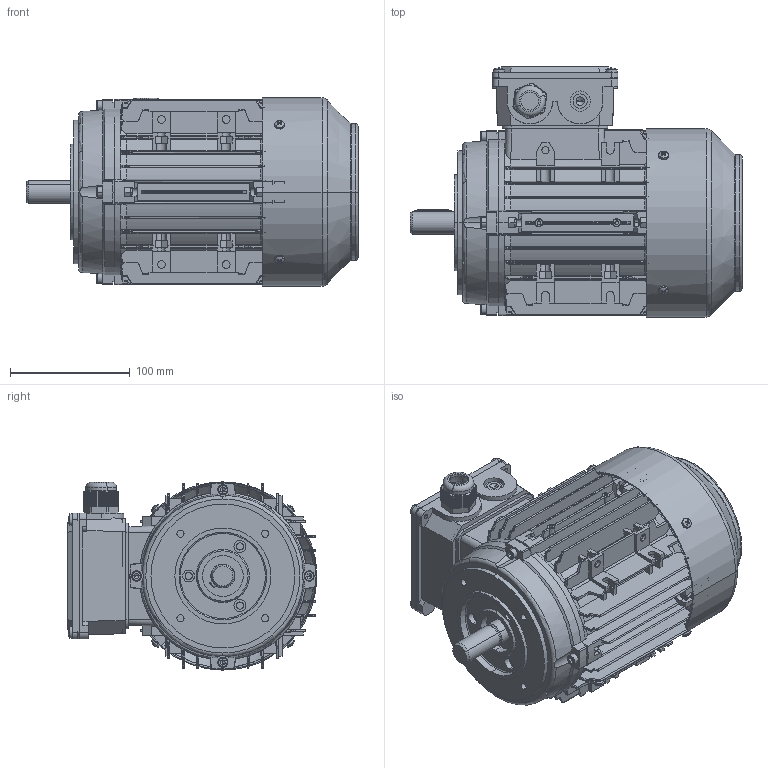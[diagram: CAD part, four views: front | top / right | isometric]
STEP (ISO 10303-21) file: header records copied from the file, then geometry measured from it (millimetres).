
FILE_DESCRIPTION (( 'STEP AP203' ), '1' );
FILE_NAME ('T80 B14(·½).STEP', '2015-04-24T08:04:03', ( 'USER' ), ( 'MS' ), 'SwSTEP 2.0', 'SolidWorks 2008', '' );
FILE_SCHEMA (( 'CONFIG_CONTROL_DESIGN' ));
Products named in the file (15): TA80后端盖1_默认; TA80转轴_默认; Plain parallel keys_GB_CONNECTING_PIECE_KEYS_CSK 6X32; Hexagon nuts grade C GB_GB_FASTENER_NUT_SNC1 M5-N; 新接线盒座80-100_默认; T80 B14(源); T80机壳_默认; TA80风罩_默认; 80-100出线螺套_默认; 风叶_默认; Cross recessed thread forming screws GB_GB_CROSS_SCREWS_TYPE138 M4X12-N; Hexagon socket head cap screws GB_GB_FASTENER_SCREWS_HSHCS M5X25-N; 新接线盒盖80-100_默认; Cross recessed thread forming screws GB_GB_CROSS_SCREWS_TYPE138 M5X12-N; TA80 B14端盖1_默认
Assembly tree (34 placements, depth 2):
  T80 B14(源)
    TA80后端盖1_默认
    Cross recessed thread forming screws GB_GB_CROSS_SCREWS_TYPE138 M5X12-N  x4
    TA80转轴_默认
    Hexagon nuts grade C GB_GB_FASTENER_NUT_SNC1 M5-N  x8
    Hexagon socket head cap screws GB_GB_FASTENER_SCREWS_HSHCS M5X25-N  x8
    TA80 B14端盖1_默认
    Cross recessed thread forming screws GB_GB_CROSS_SCREWS_TYPE138 M4X12-N  x4
    新接线盒盖80-100_默认
    80-100出线螺套_默认
    T80机壳_默认
    TA80风罩_默认
    Plain parallel keys_GB_CONNECTING_PIECE_KEYS_CSK 6X32
    新接线盒座80-100_默认
    风叶_默认
Bounding box: 277 x 208.55 x 157.1 mm (x, y, z)
Volume: 838062.4 mm3; surface area: 591994.6 mm2
Topology: 34 solids, 34 shells, 3637 faces, 9507 edges, 6001 vertices
Faces by surface type: plane 1970, cylinder 910, cone 284, bspline 226, torus 143, sphere 104
Entity records: 109817 total; most frequent: CARTESIAN_POINT 30828, ORIENTED_EDGE 16890, DIRECTION 14903, EDGE_CURVE 8445, VERTEX_POINT 5366, AXIS2_PLACEMENT_3D 5064, VECTOR 4775, LINE 4775
